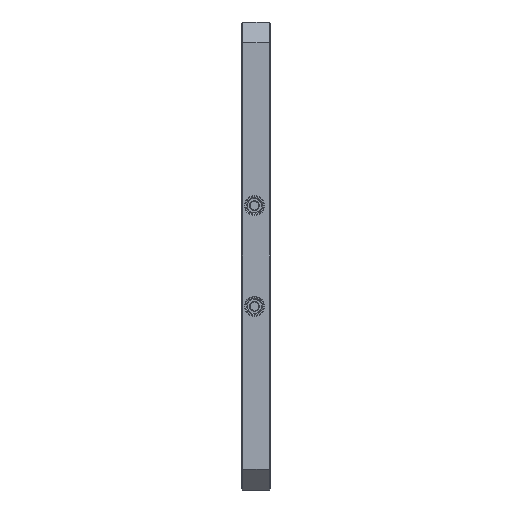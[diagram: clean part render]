
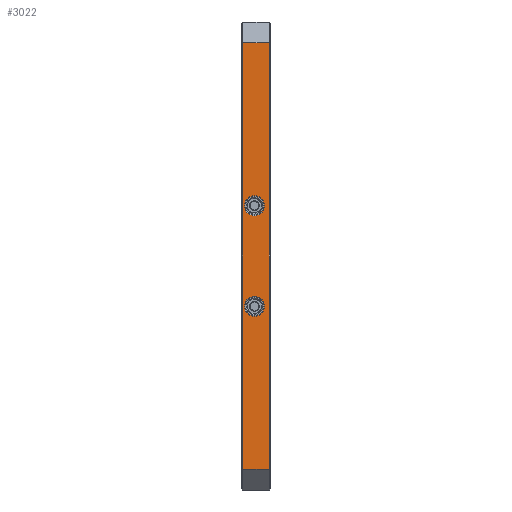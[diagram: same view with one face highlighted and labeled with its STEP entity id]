
A CAD part, left-side view. The second image highlights one B-rep face of the part: STEP entity #3022.
In plain terms, the highlighted planar face has unit normal (-1, 0, 0).
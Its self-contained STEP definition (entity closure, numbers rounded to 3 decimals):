
#138 = CARTESIAN_POINT ( 'NONE',  ( -223., 15., 38.5 ) ) ;
#156 = LINE ( 'NONE', #399, #562 ) ;
#209 = AXIS2_PLACEMENT_3D ( 'NONE', #4065, #13532, #5433 ) ;
#314 = FACE_BOUND ( 'NONE', #17172, .T. ) ;
#399 = CARTESIAN_POINT ( 'NONE',  ( -223., 26., 223. ) ) ;
#562 = VECTOR ( 'NONE', #1757, 1000. ) ;
#603 = CARTESIAN_POINT ( 'NONE',  ( -223., 1., 203. ) ) ;
#756 = CARTESIAN_POINT ( 'NONE',  ( -223., 15., 48. ) ) ;
#850 = DIRECTION ( 'NONE',  ( 1., 0., 0. ) ) ;
#948 = LINE ( 'NONE', #16332, #4152 ) ;
#964 = DIRECTION ( 'NONE',  ( -1., 0., 0. ) ) ;
#1757 = DIRECTION ( 'NONE',  ( 0., 0., -1. ) ) ;
#1879 = VERTEX_POINT ( 'NONE', #8899 ) ;
#1936 = VECTOR ( 'NONE', #2077, 1000. ) ;
#1979 = ORIENTED_EDGE ( 'NONE', *, *, #9368, .F. ) ;
#2077 = DIRECTION ( 'NONE',  ( 0., -1., 0. ) ) ;
#2139 = DIRECTION ( 'NONE',  ( 0., 0., 1. ) ) ;
#2760 = CIRCLE ( 'NONE', #16722, 9.5 ) ;
#3013 = VECTOR ( 'NONE', #9483, 1000. ) ;
#3022 = ADVANCED_FACE ( 'NONE', ( #11086, #314, #4766 ), #3539, .F. ) ;
#3115 = VERTEX_POINT ( 'NONE', #15908 ) ;
#3470 = VERTEX_POINT ( 'NONE', #603 ) ;
#3539 = PLANE ( 'NONE',  #10157 ) ;
#3862 = VERTEX_POINT ( 'NONE', #138 ) ;
#3993 = CIRCLE ( 'NONE', #17307, 9.5 ) ;
#4065 = CARTESIAN_POINT ( 'NONE',  ( -223., 15., -48. ) ) ;
#4152 = VECTOR ( 'NONE', #8234, 1000. ) ;
#4627 = EDGE_LOOP ( 'NONE', ( #10144, #6611, #11558, #10648 ) ) ;
#4766 = FACE_OUTER_BOUND ( 'NONE', #4627, .T. ) ;
#4820 = EDGE_CURVE ( 'NONE', #9667, #3470, #17404, .T. ) ;
#5095 = EDGE_CURVE ( 'NONE', #3115, #9667, #16359, .T. ) ;
#5113 = EDGE_CURVE ( 'NONE', #17296, #3862, #9142, .T. ) ;
#5433 = DIRECTION ( 'NONE',  ( 0., 0., 1. ) ) ;
#5467 = ORIENTED_EDGE ( 'NONE', *, *, #5113, .F. ) ;
#5647 = EDGE_CURVE ( 'NONE', #1879, #10150, #2760, .T. ) ;
#5816 = DIRECTION ( 'NONE',  ( -1., 0., 0. ) ) ;
#6084 = CARTESIAN_POINT ( 'NONE',  ( -223., 15., -38.5 ) ) ;
#6131 = CARTESIAN_POINT ( 'NONE',  ( -223., 27., -203. ) ) ;
#6611 = ORIENTED_EDGE ( 'NONE', *, *, #4820, .T. ) ;
#6788 = CARTESIAN_POINT ( 'NONE',  ( -223., 1., 203. ) ) ;
#7651 = CARTESIAN_POINT ( 'NONE',  ( -223., 27., 223. ) ) ;
#8234 = DIRECTION ( 'NONE',  ( 0., 1., 0. ) ) ;
#8862 = VERTEX_POINT ( 'NONE', #9837 ) ;
#8899 = CARTESIAN_POINT ( 'NONE',  ( -223., 15., -57.5 ) ) ;
#9029 = CARTESIAN_POINT ( 'NONE',  ( -223., 1., -203. ) ) ;
#9091 = CARTESIAN_POINT ( 'NONE',  ( -223., 15., -48. ) ) ;
#9142 = CIRCLE ( 'NONE', #12826, 9.5 ) ;
#9368 = EDGE_CURVE ( 'NONE', #3862, #17296, #3993, .T. ) ;
#9483 = DIRECTION ( 'NONE',  ( 0., 0., 1. ) ) ;
#9614 = CARTESIAN_POINT ( 'NONE',  ( -223., 15., 57.5 ) ) ;
#9667 = VERTEX_POINT ( 'NONE', #9029 ) ;
#9837 = CARTESIAN_POINT ( 'NONE',  ( -223., 26., 203. ) ) ;
#10144 = ORIENTED_EDGE ( 'NONE', *, *, #5095, .T. ) ;
#10150 = VERTEX_POINT ( 'NONE', #6084 ) ;
#10157 = AXIS2_PLACEMENT_3D ( 'NONE', #7651, #850, #10331 ) ;
#10235 = DIRECTION ( 'NONE',  ( -1., 0., 0. ) ) ;
#10331 = DIRECTION ( 'NONE',  ( 0., 0., -1. ) ) ;
#10434 = DIRECTION ( 'NONE',  ( 0., 0., 1. ) ) ;
#10648 = ORIENTED_EDGE ( 'NONE', *, *, #15508, .T. ) ;
#11027 = EDGE_CURVE ( 'NONE', #3470, #8862, #948, .T. ) ;
#11086 = FACE_BOUND ( 'NONE', #16977, .T. ) ;
#11558 = ORIENTED_EDGE ( 'NONE', *, *, #11027, .T. ) ;
#12826 = AXIS2_PLACEMENT_3D ( 'NONE', #756, #10235, #2139 ) ;
#13532 = DIRECTION ( 'NONE',  ( -1., 0., 0. ) ) ;
#13702 = EDGE_CURVE ( 'NONE', #10150, #1879, #15045, .T. ) ;
#13912 = CARTESIAN_POINT ( 'NONE',  ( -223., 15., 48. ) ) ;
#15045 = CIRCLE ( 'NONE', #209, 9.5 ) ;
#15175 = ORIENTED_EDGE ( 'NONE', *, *, #5647, .F. ) ;
#15291 = DIRECTION ( 'NONE',  ( 0., 0., 1. ) ) ;
#15508 = EDGE_CURVE ( 'NONE', #8862, #3115, #156, .T. ) ;
#15908 = CARTESIAN_POINT ( 'NONE',  ( -223., 26., -203. ) ) ;
#16332 = CARTESIAN_POINT ( 'NONE',  ( -223., 27., 203. ) ) ;
#16359 = LINE ( 'NONE', #6131, #1936 ) ;
#16722 = AXIS2_PLACEMENT_3D ( 'NONE', #9091, #964, #10434 ) ;
#16758 = ORIENTED_EDGE ( 'NONE', *, *, #13702, .F. ) ;
#16977 = EDGE_LOOP ( 'NONE', ( #5467, #1979 ) ) ;
#17172 = EDGE_LOOP ( 'NONE', ( #16758, #15175 ) ) ;
#17296 = VERTEX_POINT ( 'NONE', #9614 ) ;
#17307 = AXIS2_PLACEMENT_3D ( 'NONE', #13912, #5816, #15291 ) ;
#17404 = LINE ( 'NONE', #6788, #3013 ) ;
